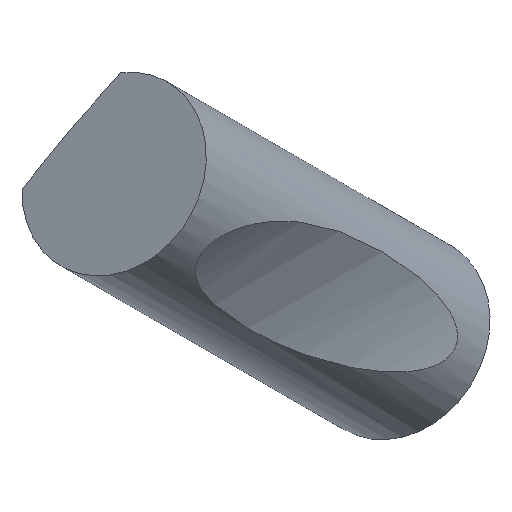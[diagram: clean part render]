
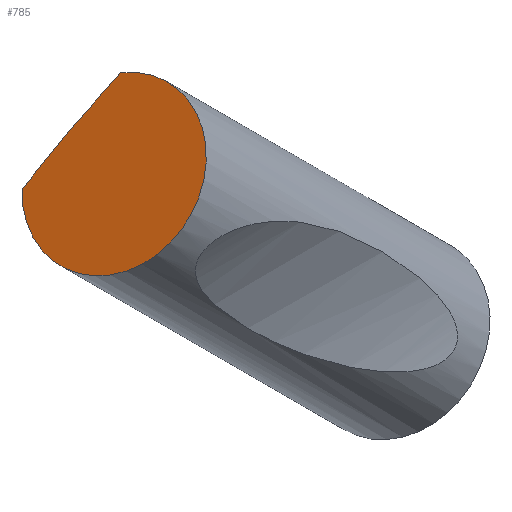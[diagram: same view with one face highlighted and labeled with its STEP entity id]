
A CAD part, isometric view. The second image highlights one B-rep face of the part: STEP entity #785.
In plain terms, the highlighted planar face has unit normal (-0.707, 0, 0.707).
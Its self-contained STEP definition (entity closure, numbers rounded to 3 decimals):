
#21 = EDGE_CURVE('',#22,#24,#26,.T.);
#22 = VERTEX_POINT('',#23);
#23 = CARTESIAN_POINT('',(90.548,-37.173,
    58.209));
#24 = VERTEX_POINT('',#25);
#25 = CARTESIAN_POINT('',(86.054,-35.761,
    53.715));
#26 = SURFACE_CURVE('',#27,(#32,#44),.PCURVE_S1.);
#27 = CIRCLE('',#28,4.5);
#28 = AXIS2_PLACEMENT_3D('',#29,#30,#31);
#29 = CARTESIAN_POINT('',(87.825,-39.5,55.485));
#30 = DIRECTION('',(0.707,0.,-0.707));
#31 = DIRECTION('',(-0.707,0.,-0.707));
#32 = PCURVE('',#33,#38);
#33 = CYLINDRICAL_SURFACE('',#34,4.5);
#34 = AXIS2_PLACEMENT_3D('',#35,#36,#37);
#35 = CARTESIAN_POINT('',(87.825,-39.5,55.485));
#36 = DIRECTION('',(0.707,0.,-0.707));
#37 = DIRECTION('',(-0.707,0.,-0.707));
#38 = DEFINITIONAL_REPRESENTATION('',(#39),#43);
#39 = LINE('',#40,#41);
#40 = CARTESIAN_POINT('',(0.,0.));
#41 = VECTOR('',#42,1.);
#42 = DIRECTION('',(1.,0.));
#43 = ( GEOMETRIC_REPRESENTATION_CONTEXT(2) 
PARAMETRIC_REPRESENTATION_CONTEXT() REPRESENTATION_CONTEXT('2D SPACE',''
  ) );
#44 = PCURVE('',#45,#50);
#45 = PLANE('',#46);
#46 = AXIS2_PLACEMENT_3D('',#47,#48,#49);
#47 = CARTESIAN_POINT('',(87.825,-39.5,55.485));
#48 = DIRECTION('',(0.707,0.,-0.707));
#49 = DIRECTION('',(-0.707,0.,-0.707));
#50 = DEFINITIONAL_REPRESENTATION('',(#51),#55);
#51 = CIRCLE('',#52,4.5);
#52 = AXIS2_PLACEMENT_2D('',#53,#54);
#53 = CARTESIAN_POINT('',(0.,0.));
#54 = DIRECTION('',(1.,0.));
#55 = ( GEOMETRIC_REPRESENTATION_CONTEXT(2) 
PARAMETRIC_REPRESENTATION_CONTEXT() REPRESENTATION_CONTEXT('2D SPACE',''
  ) );
#96 = CYLINDRICAL_SURFACE('',#97,30.);
#97 = AXIS2_PLACEMENT_3D('',#98,#99,#100);
#98 = CARTESIAN_POINT('',(81.,-65.,47.));
#99 = DIRECTION('',(1.,0.,0.));
#100 = DIRECTION('',(0.,0.,1.));
#785 = ADVANCED_FACE('',(#786),#45,.F.);
#786 = FACE_BOUND('',#787,.T.);
#787 = EDGE_LOOP('',(#788,#831));
#788 = ORIENTED_EDGE('',*,*,#789,.T.);
#789 = EDGE_CURVE('',#22,#24,#790,.T.);
#790 = SURFACE_CURVE('',#791,(#795,#802),.PCURVE_S1.);
#791 = ( BOUNDED_CURVE() B_SPLINE_CURVE(2,(#792,#793,#794),
.UNSPECIFIED.,.F.,.F.) B_SPLINE_CURVE_WITH_KNOTS((3,3),(282.934,
291.939),.PIECEWISE_BEZIER_KNOTS.) CURVE() 
GEOMETRIC_REPRESENTATION_ITEM() RATIONAL_B_SPLINE_CURVE((1.,
0.997,1.)) REPRESENTATION_ITEM('') );
#792 = CARTESIAN_POINT('',(90.548,-37.173,
    58.209));
#793 = CARTESIAN_POINT('',(88.357,-36.29,
    56.017));
#794 = CARTESIAN_POINT('',(86.054,-35.761,
    53.715));
#795 = PCURVE('',#45,#796);
#796 = DEFINITIONAL_REPRESENTATION('',(#797),#801);
#797 = ( BOUNDED_CURVE() B_SPLINE_CURVE(2,(#798,#799,#800),
.UNSPECIFIED.,.F.,.F.) B_SPLINE_CURVE_WITH_KNOTS((3,3),(282.934,
291.939),.PIECEWISE_BEZIER_KNOTS.) CURVE() 
GEOMETRIC_REPRESENTATION_ITEM() RATIONAL_B_SPLINE_CURVE((1.,
0.997,1.)) REPRESENTATION_ITEM('') );
#798 = CARTESIAN_POINT('',(-3.851,2.327));
#799 = CARTESIAN_POINT('',(-0.752,3.21));
#800 = CARTESIAN_POINT('',(2.504,3.739));
#801 = ( GEOMETRIC_REPRESENTATION_CONTEXT(2) 
PARAMETRIC_REPRESENTATION_CONTEXT() REPRESENTATION_CONTEXT('2D SPACE',''
  ) );
#802 = PCURVE('',#96,#803);
#803 = DEFINITIONAL_REPRESENTATION('',(#804),#830);
#804 = B_SPLINE_CURVE_WITH_KNOTS('',3,(#805,#806,#807,#808,#809,#810,
    #811,#812,#813,#814,#815,#816,#817,#818,#819,#820,#821,#822,#823,
    #824,#825,#826,#827,#828,#829),.UNSPECIFIED.,.F.,.F.,(4,1,1,1,1,1,1,
    1,1,1,1,1,1,1,1,1,1,1,1,1,1,1,4),(282.934,283.343,
    283.752,284.162,284.571,284.98,
    285.39,285.799,286.208,286.618,
    287.027,287.436,287.846,288.255,
    288.664,289.074,289.483,289.892,
    290.302,290.711,291.12,291.53,
    291.939),.QUASI_UNIFORM_KNOTS.);
#805 = CARTESIAN_POINT('',(5.095,9.548));
#806 = CARTESIAN_POINT('',(5.093,9.482));
#807 = CARTESIAN_POINT('',(5.088,9.349));
#808 = CARTESIAN_POINT('',(5.081,9.15));
#809 = CARTESIAN_POINT('',(5.074,8.95));
#810 = CARTESIAN_POINT('',(5.067,8.749));
#811 = CARTESIAN_POINT('',(5.06,8.548));
#812 = CARTESIAN_POINT('',(5.052,8.346));
#813 = CARTESIAN_POINT('',(5.045,8.143));
#814 = CARTESIAN_POINT('',(5.038,7.941));
#815 = CARTESIAN_POINT('',(5.031,7.737));
#816 = CARTESIAN_POINT('',(5.024,7.533));
#817 = CARTESIAN_POINT('',(5.017,7.329));
#818 = CARTESIAN_POINT('',(5.01,7.124));
#819 = CARTESIAN_POINT('',(5.002,6.919));
#820 = CARTESIAN_POINT('',(4.995,6.713));
#821 = CARTESIAN_POINT('',(4.988,6.507));
#822 = CARTESIAN_POINT('',(4.981,6.301));
#823 = CARTESIAN_POINT('',(4.974,6.094));
#824 = CARTESIAN_POINT('',(4.967,5.886));
#825 = CARTESIAN_POINT('',(4.96,5.679));
#826 = CARTESIAN_POINT('',(4.952,5.471));
#827 = CARTESIAN_POINT('',(4.945,5.263));
#828 = CARTESIAN_POINT('',(4.941,5.124));
#829 = CARTESIAN_POINT('',(4.938,5.054));
#830 = ( GEOMETRIC_REPRESENTATION_CONTEXT(2) 
PARAMETRIC_REPRESENTATION_CONTEXT() REPRESENTATION_CONTEXT('2D SPACE',''
  ) );
#831 = ORIENTED_EDGE('',*,*,#21,.F.);
